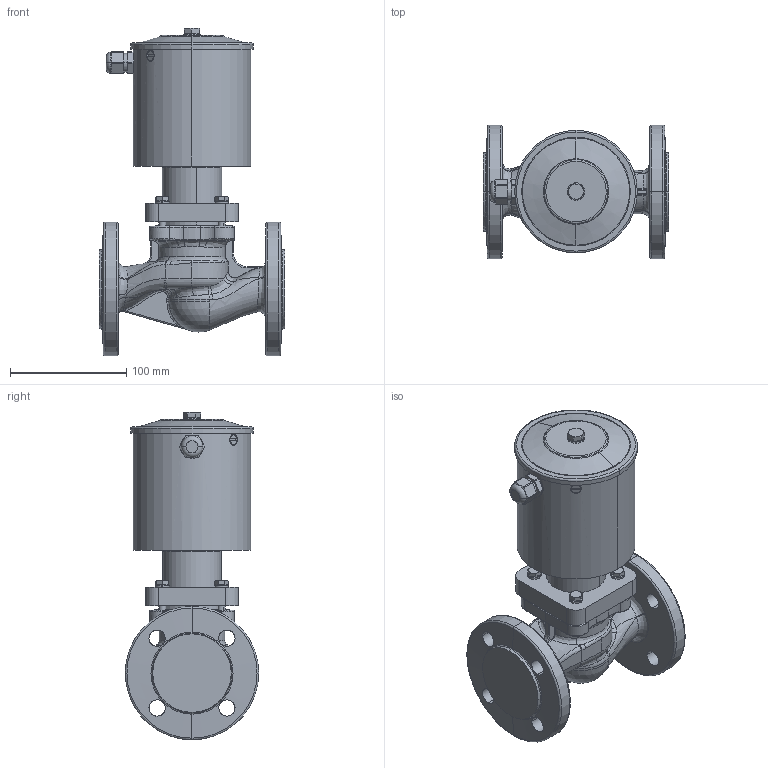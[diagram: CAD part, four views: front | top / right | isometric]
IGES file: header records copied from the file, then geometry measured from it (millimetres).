
Global section: file name: No Iges File Name specified; native system: AutoDesk Inventor R12.0; preprocessor: AutoDesk Inventor Iges Exporter R12.0; date: 20110408.085606; units: millimetre
Bounding box: 160 x 115 x 282.3 mm (x, y, z)
Volume: 1689669.5 mm3; surface area: 164068.1 mm2
Topology: 1 solids, 1 shells, 506 faces, 1232 edges, 747 vertices
Faces by surface type: bspline 182, plane 122, cylinder 87, cone 52, revolution 33, torus 28, sphere 2
